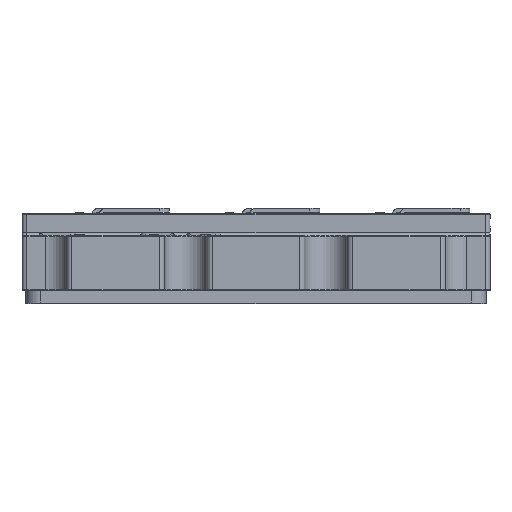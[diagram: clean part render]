
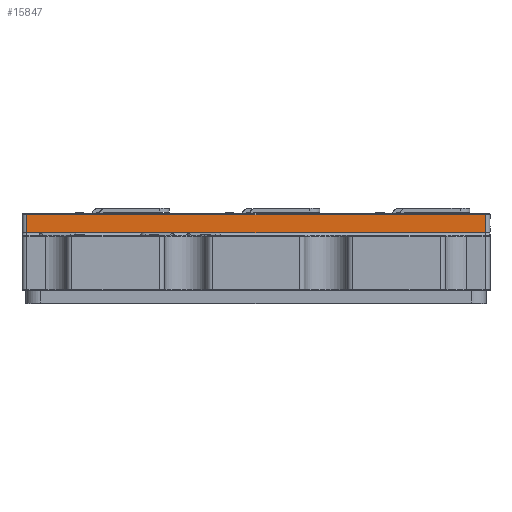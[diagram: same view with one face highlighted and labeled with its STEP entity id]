
A CAD part, top view. The second image highlights one B-rep face of the part: STEP entity #15847.
In plain terms, the highlighted planar face has unit normal (0, 0, 1).
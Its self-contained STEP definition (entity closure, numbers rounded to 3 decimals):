
#457 = VERTEX_POINT ( 'NONE', #44875 ) ;
#914 = VECTOR ( 'NONE', #38993, 1000. ) ;
#2862 = CARTESIAN_POINT ( 'NONE',  ( 93., 8.5, 32.5 ) ) ;
#6051 = DIRECTION ( 'NONE',  ( 0., 0., 1. ) ) ;
#7322 = VECTOR ( 'NONE', #43426, 1000. ) ;
#7944 = EDGE_CURVE ( 'NONE', #457, #11547, #11271, .T. ) ;
#11271 = LINE ( 'NONE', #40713, #12268 ) ;
#11547 = VERTEX_POINT ( 'NONE', #52373 ) ;
#12169 = EDGE_CURVE ( 'NONE', #457, #16745, #22485, .T. ) ;
#12268 = VECTOR ( 'NONE', #20356, 1000. ) ;
#13974 = CARTESIAN_POINT ( 'NONE',  ( -95., 8.5, 32.5 ) ) ;
#14061 = VERTEX_POINT ( 'NONE', #2862 ) ;
#15847 = ADVANCED_FACE ( 'NONE', ( #39893 ), #18986, .T. ) ;
#16745 = VERTEX_POINT ( 'NONE', #36177 ) ;
#18986 = PLANE ( 'NONE',  #42681 ) ;
#20356 = DIRECTION ( 'NONE',  ( 1., 0., 0. ) ) ;
#20456 = ORIENTED_EDGE ( 'NONE', *, *, #7944, .T. ) ;
#22485 = LINE ( 'NONE', #42851, #914 ) ;
#22842 = DIRECTION ( 'NONE',  ( 1., 0., 0. ) ) ;
#23960 = CARTESIAN_POINT ( 'NONE',  ( 93., -1.5, 32.5 ) ) ;
#24621 = ORIENTED_EDGE ( 'NONE', *, *, #52430, .F. ) ;
#25420 = ORIENTED_EDGE ( 'NONE', *, *, #12169, .F. ) ;
#35768 = CARTESIAN_POINT ( 'NONE',  ( -95., 9., 32.5 ) ) ;
#36177 = CARTESIAN_POINT ( 'NONE',  ( -93., 8.5, 32.5 ) ) ;
#38760 = LINE ( 'NONE', #13974, #7322 ) ;
#38993 = DIRECTION ( 'NONE',  ( 0., 1., 0. ) ) ;
#39753 = VECTOR ( 'NONE', #40475, 1000. ) ;
#39893 = FACE_OUTER_BOUND ( 'NONE', #52372, .T. ) ;
#40111 = EDGE_CURVE ( 'NONE', #14061, #16745, #38760, .T. ) ;
#40475 = DIRECTION ( 'NONE',  ( 0., -1., 0. ) ) ;
#40713 = CARTESIAN_POINT ( 'NONE',  ( -95., 1., 32.5 ) ) ;
#42681 = AXIS2_PLACEMENT_3D ( 'NONE', #35768, #6051, #22842 ) ;
#42851 = CARTESIAN_POINT ( 'NONE',  ( -93., 9., 32.5 ) ) ;
#43426 = DIRECTION ( 'NONE',  ( -1., 0., 0. ) ) ;
#44875 = CARTESIAN_POINT ( 'NONE',  ( -93., 1., 32.5 ) ) ;
#50707 = ORIENTED_EDGE ( 'NONE', *, *, #40111, .T. ) ;
#52372 = EDGE_LOOP ( 'NONE', ( #25420, #20456, #24621, #50707 ) ) ;
#52373 = CARTESIAN_POINT ( 'NONE',  ( 93., 1., 32.5 ) ) ;
#52430 = EDGE_CURVE ( 'NONE', #14061, #11547, #53118, .T. ) ;
#53118 = LINE ( 'NONE', #23960, #39753 ) ;
